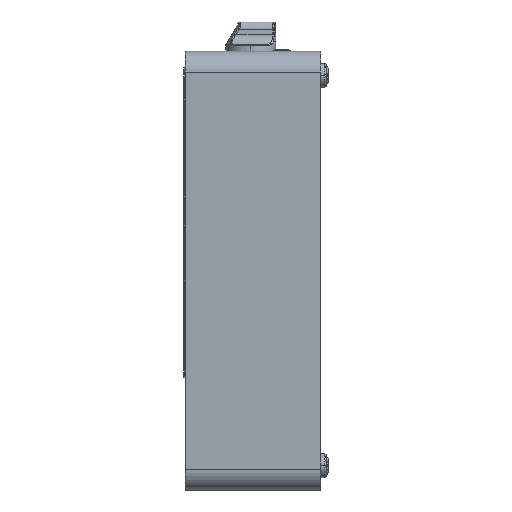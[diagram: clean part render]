
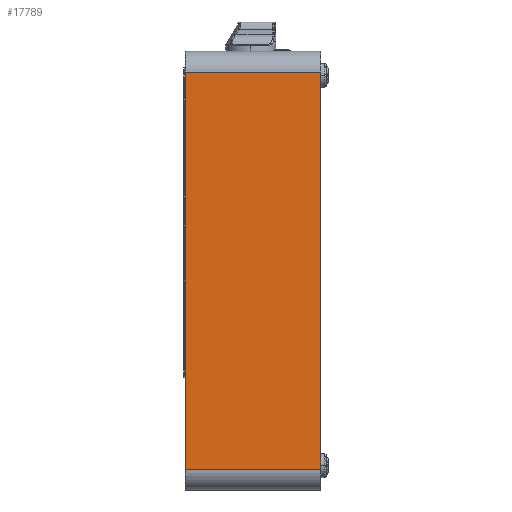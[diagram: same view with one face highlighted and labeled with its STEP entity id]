
A CAD part, left-side view. The second image highlights one B-rep face of the part: STEP entity #17789.
In plain terms, the highlighted planar face has unit normal (-1, 0, 0).
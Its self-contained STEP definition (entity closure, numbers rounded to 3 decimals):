
#300 = ORIENTED_EDGE ( 'NONE', *, *, #11742, .F. ) ;
#301 = ORIENTED_EDGE ( 'NONE', *, *, #11745, .F. ) ;
#302 = ORIENTED_EDGE ( 'NONE', *, *, #11743, .F. ) ;
#303 = ORIENTED_EDGE ( 'NONE', *, *, #11744, .F. ) ;
#11742 = EDGE_CURVE ( 'NONE', #22565, #22535, #12478, .T. ) ;
#11743 = EDGE_CURVE ( 'NONE', #22535, #22634, #12475, .T. ) ;
#11744 = EDGE_CURVE ( 'NONE', #22527, #22565, #12472, .T. ) ;
#11745 = EDGE_CURVE ( 'NONE', #22634, #22527, #12468, .T. ) ;
#12465 = DIRECTION ( 'NONE',  ( 0., 0., 1. ) ) ;
#12466 = CARTESIAN_POINT ( 'NONE',  ( -180., 0., -438. ) ) ;
#12468 = LINE ( 'NONE', #12466, #21358 ) ;
#12470 = DIRECTION ( 'NONE',  ( 0., -1., 0. ) ) ;
#12471 = CARTESIAN_POINT ( 'NONE',  ( -180., -726.123, -22. ) ) ;
#12472 = LINE ( 'NONE', #12471, #21360 ) ;
#12473 = DIRECTION ( 'NONE',  ( 0., 1., 0. ) ) ;
#12474 = CARTESIAN_POINT ( 'NONE',  ( -180., -726.123, -438. ) ) ;
#12475 = LINE ( 'NONE', #12474, #21363 ) ;
#12476 = DIRECTION ( 'NONE',  ( 0., 0., -1. ) ) ;
#12477 = CARTESIAN_POINT ( 'NONE',  ( -180., -142., -438. ) ) ;
#12478 = LINE ( 'NONE', #12477, #21365 ) ;
#16277 = CARTESIAN_POINT ( 'NONE',  ( -180., 0., -22. ) ) ;
#16293 = CARTESIAN_POINT ( 'NONE',  ( -180., -142., -438. ) ) ;
#16351 = CARTESIAN_POINT ( 'NONE',  ( -180., -142., -22. ) ) ;
#17789 = ADVANCED_FACE ( 'NONE', ( #21964 ), #41508, .T. ) ;
#18698 = EDGE_LOOP ( 'NONE', ( #303, #301, #302, #300 ) ) ;
#21358 = VECTOR ( 'NONE', #12465, 1000. ) ;
#21360 = VECTOR ( 'NONE', #12470, 1000. ) ;
#21363 = VECTOR ( 'NONE', #12473, 1000. ) ;
#21365 = VECTOR ( 'NONE', #12476, 1000. ) ;
#21807 = AXIS2_PLACEMENT_3D ( 'NONE', #41509, #41510, #41511 ) ;
#21964 = FACE_OUTER_BOUND ( 'NONE', #18698, .T. ) ;
#22527 = VERTEX_POINT ( 'NONE', #16277 ) ;
#22535 = VERTEX_POINT ( 'NONE', #16293 ) ;
#22565 = VERTEX_POINT ( 'NONE', #16351 ) ;
#22634 = VERTEX_POINT ( 'NONE', #43846 ) ;
#41508 = PLANE ( 'NONE',  #21807 ) ;
#41509 = CARTESIAN_POINT ( 'NONE',  ( -180., -726.123, -438. ) ) ;
#41510 = DIRECTION ( 'NONE',  ( -1., 0., 0. ) ) ;
#41511 = DIRECTION ( 'NONE',  ( 0., -1., 0. ) ) ;
#43846 = CARTESIAN_POINT ( 'NONE',  ( -180., 0., -438. ) ) ;
